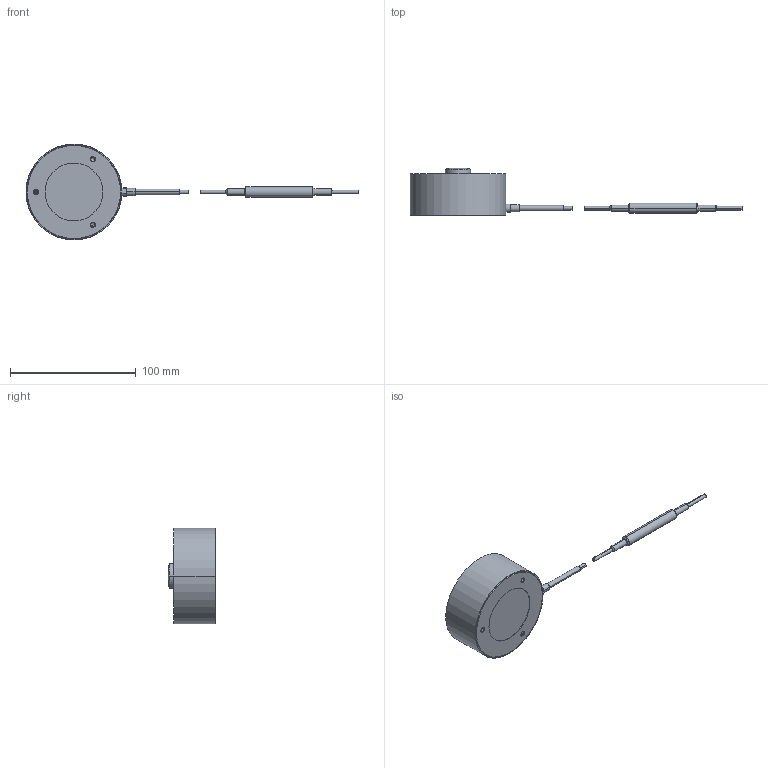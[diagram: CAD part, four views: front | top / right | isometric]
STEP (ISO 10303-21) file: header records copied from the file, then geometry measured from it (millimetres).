
FILE_DESCRIPTION(('STEP AP203'),'1');
FILE_NAME('C:/TPO v2/SharedFS/Outgoing/burster_8526-6200_7a2k0n2vouaq811tpse3hu9b5.stp','2013-08-26T19:53:50',('TraceParts'),('TraceParts S.A.'),'XStep 1.0',' ',' ');
FILE_SCHEMA(('CONFIG_CONTROL_DESIGN'));
Length unit declared in the file: millimetre
Products named in the file (2): 1; 2
Bounding box: 263.7 x 37.85 x 76.2 mm (x, y, z)
Volume: 157163.3 mm3; surface area: 20710.9 mm2
Topology: 2 solids, 2 shells, 76 faces, 159 edges, 95 vertices
Faces by surface type: cylinder 36, cone 20, plane 17, torus 2, sphere 1
Entity records: 2118 total; most frequent: DIRECTION 397, CARTESIAN_POINT 361, ORIENTED_EDGE 306, AXIS2_PLACEMENT_3D 168, EDGE_CURVE 153, VERTEX_POINT 95, EDGE_LOOP 90, CIRCLE 90
